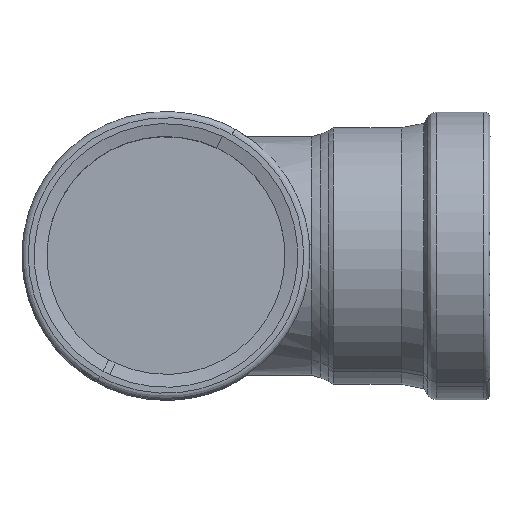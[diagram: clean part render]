
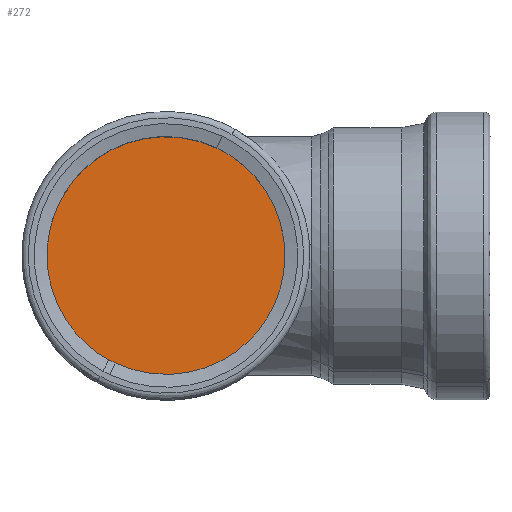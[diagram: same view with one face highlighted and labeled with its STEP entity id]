
A CAD part, top view. The second image highlights one B-rep face of the part: STEP entity #272.
In plain terms, the highlighted free-form (B-spline) face has degree [1, 1] with [2, 2] control points.
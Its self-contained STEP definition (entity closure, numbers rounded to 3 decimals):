
#272=ADVANCED_FACE('',(#565),#566,.T.);
#565=FACE_OUTER_BOUND('',#3171,.T.);
#566=B_SPLINE_SURFACE_WITH_KNOTS('',1,1,((#3172,#3173),(#3174,#3175)),.UNSPECIFIED.,.F.,.F.,.F.,(2,2),(2,2),(0.0,76.),(0.0,76.),.UNSPECIFIED.);
#3171=EDGE_LOOP('',(#4449,#4450,#4451));
#3172=CARTESIAN_POINT('',(-38.0,-38.,50.5));
#3173=CARTESIAN_POINT('',(-38.0,38.,50.5));
#3174=CARTESIAN_POINT('',(38.,-38.,50.5));
#3175=CARTESIAN_POINT('',(38.,38.,50.5));
#4449=ORIENTED_EDGE('',*,*,#4887,.T.);
#4450=ORIENTED_EDGE('',*,*,#4770,.T.);
#4451=ORIENTED_EDGE('',*,*,#4774,.T.);
#4770=EDGE_CURVE('',#5195,#5199,#5201,.T.);
#4774=EDGE_CURVE('',#5199,#5205,#5207,.T.);
#4887=EDGE_CURVE('',#5205,#5195,#5357,.T.);
#5195=VERTEX_POINT('',#6805);
#5199=VERTEX_POINT('',#6823);
#5201=(B_SPLINE_CURVE(2,(#6827,#6828,#6829,#6830,#6831,#6832,#6833),.UNSPECIFIED.,.F.,.F.)B_SPLINE_CURVE_WITH_KNOTS((3,2,2,3),(-3.078,-1.571,0.,0.063),.UNSPECIFIED.)RATIONAL_B_SPLINE_CURVE((0.977,0.719,1.0,0.707,1.0,0.988,0.977))BOUNDED_CURVE()REPRESENTATION_ITEM('')GEOMETRIC_REPRESENTATION_ITEM()CURVE());
#5205=VERTEX_POINT('',#6854);
#5207=(B_SPLINE_CURVE(2,(#6858,#6859,#6860,#6861,#6862),.UNSPECIFIED.,.F.,.F.)B_SPLINE_CURVE_WITH_KNOTS((3,2,3),(0.063,1.571,3.142),.UNSPECIFIED.)RATIONAL_B_SPLINE_CURVE((0.977,0.719,1.0,0.707,1.0))BOUNDED_CURVE()REPRESENTATION_ITEM('')GEOMETRIC_REPRESENTATION_ITEM()CURVE());
#5357=(B_SPLINE_CURVE(2,(#7704,#7705,#7706),.UNSPECIFIED.,.F.,.F.)B_SPLINE_CURVE_WITH_KNOTS((3,3),(-3.142,-3.078),.UNSPECIFIED.)RATIONAL_B_SPLINE_CURVE((1.0,0.988,0.977))BOUNDED_CURVE()REPRESENTATION_ITEM('')GEOMETRIC_REPRESENTATION_ITEM()CURVE());
#6805=CARTESIAN_POINT('',(-16.268,-34.342,50.5));
#6823=CARTESIAN_POINT('',(16.268,34.342,50.5));
#6827=CARTESIAN_POINT('',(-16.268,-34.342,50.5));
#6828=CARTESIAN_POINT('',(16.15,-49.699,50.5));
#6829=CARTESIAN_POINT('',(33.348,-18.218,50.5));
#6830=CARTESIAN_POINT('',(51.566,15.13,50.5));
#6831=CARTESIAN_POINT('',(18.218,33.348,50.5));
#6832=CARTESIAN_POINT('',(17.258,33.873,50.5));
#6833=CARTESIAN_POINT('',(16.268,34.342,50.5));
#6854=CARTESIAN_POINT('',(-18.218,-33.348,50.5));
#6858=CARTESIAN_POINT('',(16.268,34.342,50.5));
#6859=CARTESIAN_POINT('',(-16.15,49.699,50.5));
#6860=CARTESIAN_POINT('',(-33.348,18.218,50.5));
#6861=CARTESIAN_POINT('',(-51.566,-15.13,50.5));
#6862=CARTESIAN_POINT('',(-18.218,-33.348,50.5));
#7704=CARTESIAN_POINT('',(-18.218,-33.348,50.5));
#7705=CARTESIAN_POINT('',(-17.258,-33.873,50.5));
#7706=CARTESIAN_POINT('',(-16.268,-34.342,50.5));
